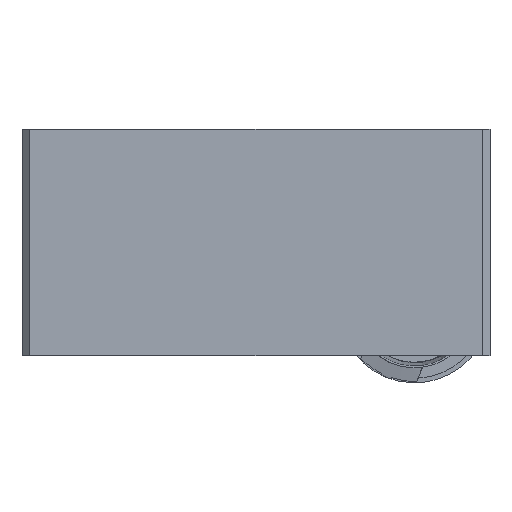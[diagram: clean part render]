
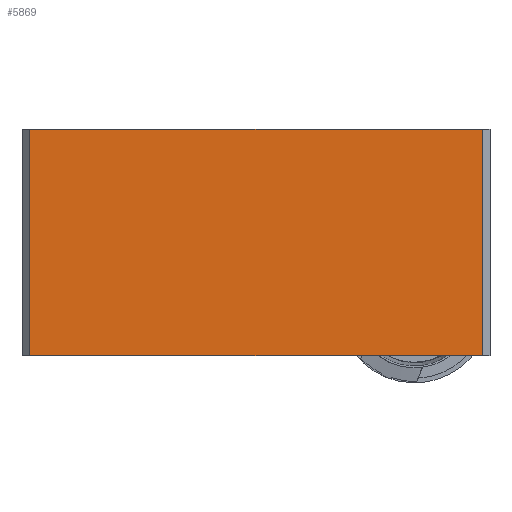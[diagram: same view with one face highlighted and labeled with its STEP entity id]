
A CAD part, front view. The second image highlights one B-rep face of the part: STEP entity #5869.
In plain terms, the highlighted planar face has unit normal (0, -1, 0).
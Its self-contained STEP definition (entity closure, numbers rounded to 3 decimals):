
#701=ORIENTED_EDGE('',*,*,#2240,.F.);
#702=ORIENTED_EDGE('',*,*,#2241,.T.);
#703=ORIENTED_EDGE('',*,*,#2242,.T.);
#704=ORIENTED_EDGE('',*,*,#2237,.T.);
#2237=EDGE_CURVE('',#3029,#3027,#3593,.T.);
#2240=EDGE_CURVE('',#3031,#3027,#3596,.T.);
#2241=EDGE_CURVE('',#3031,#3032,#3597,.T.);
#2242=EDGE_CURVE('',#3032,#3029,#3598,.T.);
#3027=VERTEX_POINT('',#10979);
#3029=VERTEX_POINT('',#10982);
#3031=VERTEX_POINT('',#10988);
#3032=VERTEX_POINT('',#10990);
#3593=LINE('',#10981,#4203);
#3596=LINE('',#10987,#4206);
#3597=LINE('',#10989,#4207);
#3598=LINE('',#10991,#4208);
#4203=VECTOR('',#9356,1000.);
#4206=VECTOR('',#9361,1000.);
#4207=VECTOR('',#9362,1000.);
#4208=VECTOR('',#9363,1000.);
#4774=EDGE_LOOP('',(#701,#702,#703,#704));
#5203=FACE_BOUND('',#4774,.T.);
#5596=PLANE('',#8616);
#5869=ADVANCED_FACE('',(#5203),#5596,.F.);
#8616=AXIS2_PLACEMENT_3D('',#10986,#9359,#9360);
#9356=DIRECTION('',(0.,0.,-1.));
#9359=DIRECTION('',(0.,1.,0.));
#9360=DIRECTION('',(-1.,0.,0.));
#9361=DIRECTION('',(-1.,0.,0.));
#9362=DIRECTION('',(0.,0.,1.));
#9363=DIRECTION('',(-1.,0.,0.));
#10979=CARTESIAN_POINT('',(-15.,-15.5,-15.));
#10981=CARTESIAN_POINT('',(-15.,-15.5,-15.));
#10982=CARTESIAN_POINT('',(-15.,-15.5,0.));
#10986=CARTESIAN_POINT('',(15.5,-15.5,-15.));
#10987=CARTESIAN_POINT('',(15.5,-15.5,-15.));
#10988=CARTESIAN_POINT('',(15.,-15.5,-15.));
#10989=CARTESIAN_POINT('',(15.,-15.5,-15.));
#10990=CARTESIAN_POINT('',(15.,-15.5,0.));
#10991=CARTESIAN_POINT('',(15.5,-15.5,0.));
